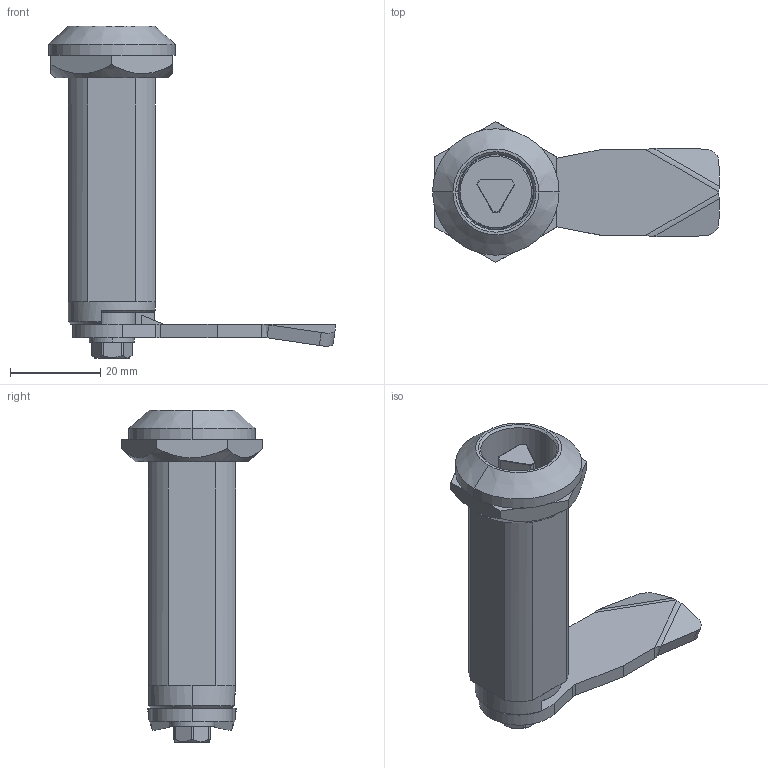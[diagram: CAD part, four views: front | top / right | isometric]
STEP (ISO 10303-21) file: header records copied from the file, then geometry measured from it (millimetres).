
FILE_DESCRIPTION (( 'STEP AP214' ), '1' );
FILE_NAME ('M22-60.STEP', '2010-02-19T15:27:46', ( '£ukaszC' ), ( '' ), 'SwSTEP 2.0', 'SolidWorks 2008', '' );
FILE_SCHEMA (( 'AUTOMOTIVE_DESIGN' ));
Length unit declared in the file: millimetre
Products named in the file (9): sruba M6x50_Domyœlna2_Domyœlna; 2.M22-T9.02.00.00_Domyœlna2_Domyœlna; 2.M22-M60D.001.01_Domyœlna2_Domyœlna; M22 - H60_Domyœlna2_Domyœlna; 2.M22-Kw8-4-SP-Cr.05.00.00_Domyœlna2_Domyœlna; oring2x12_Domyœlna2_Domyœlna; M22-00.00.05_Domyœlna2_Domyœlna; 1C_J-10018_00_03_00_Domyœlna; M22-60
Assembly tree (8 placements, depth 2):
  M22-60
    2.M22-Kw8-4-SP-Cr.05.00.00_Domyœlna2_Domyœlna
    oring2x12_Domyœlna2_Domyœlna
    M22-00.00.05_Domyœlna2_Domyœlna
    2.M22-M60D.001.01_Domyœlna2_Domyœlna
    2.M22-T9.02.00.00_Domyœlna2_Domyœlna
    sruba M6x50_Domyœlna2_Domyœlna
    M22 - H60_Domyœlna2_Domyœlna
    1C_J-10018_00_03_00_Domyœlna
Bounding box: 63.49 x 31.18 x 73.5 mm (x, y, z)
Volume: 24784.3 mm3; surface area: 19251.3 mm2
Topology: 8 solids, 8 shells, 220 faces, 523 edges, 331 vertices
Faces by surface type: plane 111, cylinder 70, cone 21, bspline 18
Entity records: 11445 total; most frequent: CARTESIAN_POINT 3696, DIRECTION 1065, ORIENTED_EDGE 1042, EDGE_CURVE 521, AXIS2_PLACEMENT_3D 393, VERTEX_POINT 331, VECTOR 279, LINE 279
